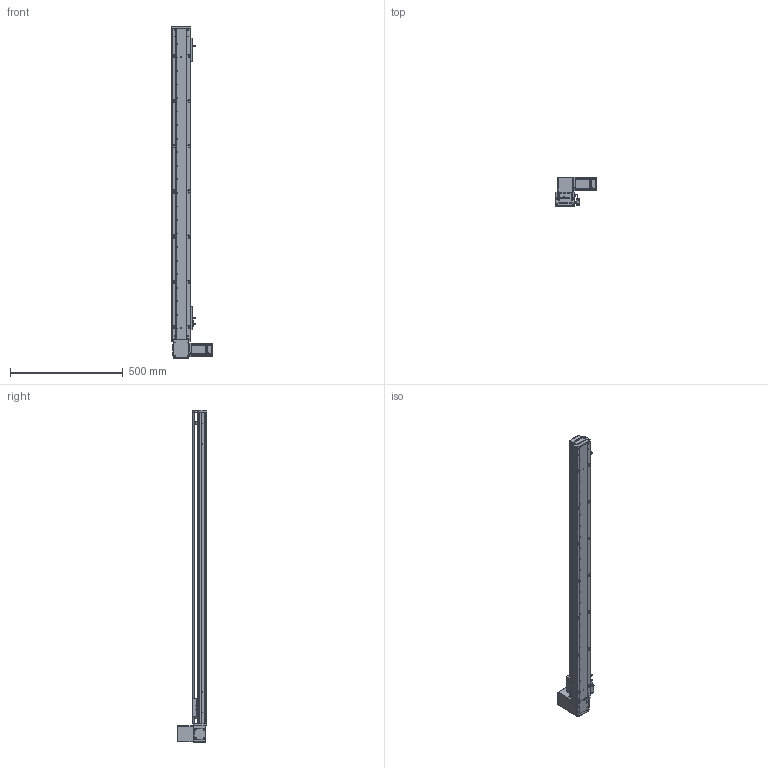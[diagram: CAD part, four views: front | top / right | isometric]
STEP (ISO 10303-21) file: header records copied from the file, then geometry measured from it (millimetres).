
FILE_DESCRIPTION (( 'STEP AP203' ), '1' );
FILE_NAME ('RY80-T-300-UR.SLDASM_1200.step', '2021-03-01T02:27:00', ( '盈信电脑' ), ( '东莞市道滘镇水果街19号' ), 'SwSTEP 2.0', 'SolidWorks 2012', '' );
FILE_SCHEMA (( 'CONFIG_CONTROL_DESIGN' ));
Length unit declared in the file: millimetre
Products named in the file (20): RY80-T萇儂假蚾啣; RY80-T-300-UR.SLDASM_1200; RY80-T-M4蹟翐2; RY80-T-上下折同步轮盖板; RY80-T肮祭謫奻殏俋欶; 1; 滅袉蝶18-10; RY80-T翋肮祭謫裔啣; RY80-T粣創揤踡輸; RY100-T粣創揤踡裔; RY80-T肮祭湍揤輸1; RY80-T肮祭湍揤輸2; RY80-T-翋肮祭謫釱; RY80俋离覜茼え; 672嫖萇羲壽假蚾釱; 覜茼ん672; RY80-T綴裔啣; RY80-T-300-UR倰第菁釱_1200; RY80-T肮祭謫臏賑輸; RY80-T-300-UR倰第奻裔啣_1200
Assembly tree (23 placements, depth 2):
  RY80-T-300-UR.SLDASM_1200
    RY80-T-300-UR倰第菁釱_1200
    RY80-T肮祭謫臏賑輸
    RY80-T-300-UR倰第奻裔啣_1200
    RY80-T綴裔啣
    672嫖萇羲壽假蚾釱  x2
    覜茼ん672  x3
    RY80俋离覜茼え
    RY80-T-翋肮祭謫釱
    RY80-T肮祭湍揤輸1
    RY80-T肮祭湍揤輸2
    RY80-T粣創揤踡輸
    滅袉蝶18-10  x2
    RY100-T粣創揤踡裔
    RY80-T翋肮祭謫裔啣
    RY80-T-上下折同步轮盖板
    1
    RY80-T肮祭謫奻殏俋欶
    RY80-T-M4蹟翐2
    RY80-T萇儂假蚾啣
Bounding box: 180 x 130.5 x 1470 mm (x, y, z)
Volume: 2451671.6 mm3; surface area: 1030863.3 mm2
Topology: 23 solids, 23 shells, 2494 faces, 6874 edges, 4466 vertices
Faces by surface type: plane 1337, cylinder 960, cone 141, bspline 56
Entity records: 79640 total; most frequent: CARTESIAN_POINT 19152, ORIENTED_EDGE 12392, DIRECTION 11706, EDGE_CURVE 6196, VERTEX_POINT 4070, AXIS2_PLACEMENT_3D 3948, VECTOR 3810, LINE 3810
